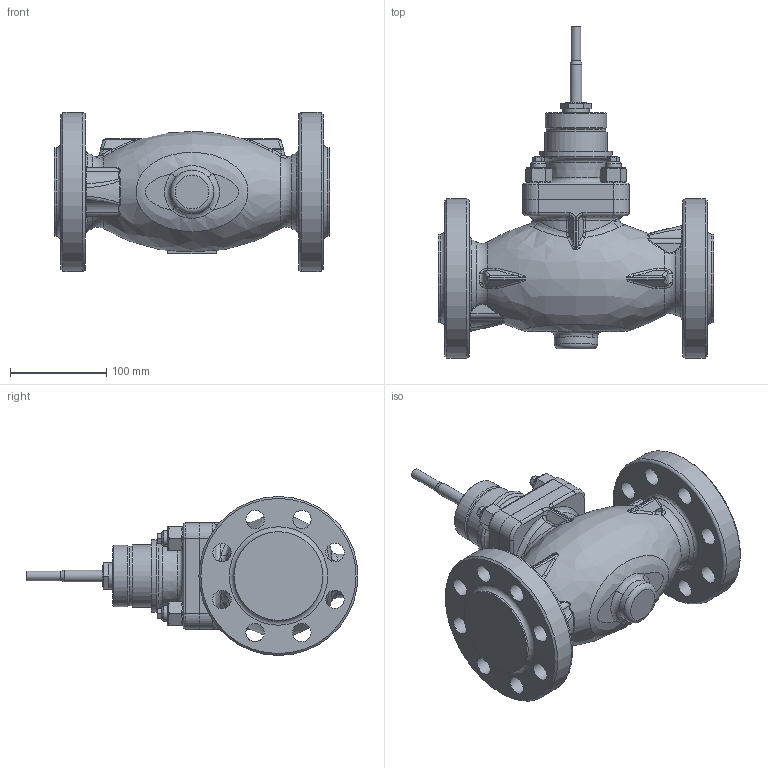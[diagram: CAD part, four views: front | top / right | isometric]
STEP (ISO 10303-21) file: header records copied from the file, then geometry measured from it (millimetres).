
FILE_DESCRIPTION(/* description */ (''),/* implementation_level */ '2;1');
FILE_NAME(/* name */ 'CV3xx_NPS_2_priruba_CL600.stp',/* time_stamp */ '2014-01-07T06:57:40+01:00',/* author */ (''),/* organization */ ('LDM'),/* preprocessor_version */ 'ST-DEVELOPER v11',/* originating_system */ 'SIEMENS PLM Software NX 7.0',/* authorisation */ '');
FILE_SCHEMA (('CONFIG_CONTROL_DESIGN'));
Length unit declared in the file: millimetre
Products named in the file (1): adamED63ysze
Bounding box: 286 x 344.5 x 165 mm (x, y, z)
Volume: 3802835.9 mm3; surface area: 260653 mm2
Topology: 1 solids, 5 shells, 496 faces, 1161 edges, 686 vertices
Faces by surface type: plane 129, bspline 114, cylinder 114, cone 102, torus 37
Full cylindrical faces by diameter (mm): 10 x1, 12 x1, 16 x12, 19.1 x16, 21 x1, 24 x8, 27 x1, 45 x1, 61.6 x1, 64 x1, 65 x1, 75 x1, 86 x1, 92.1 x2, 165 x2
Entity records: 16021 total; most frequent: CARTESIAN_POINT 6065, ORIENTED_EDGE 2044, DIRECTION 1898, EDGE_CURVE 1022, AXIS2_PLACEMENT_3D 840, EDGE_LOOP 648, VERTEX_POINT 640, ADVANCED_FACE 496
